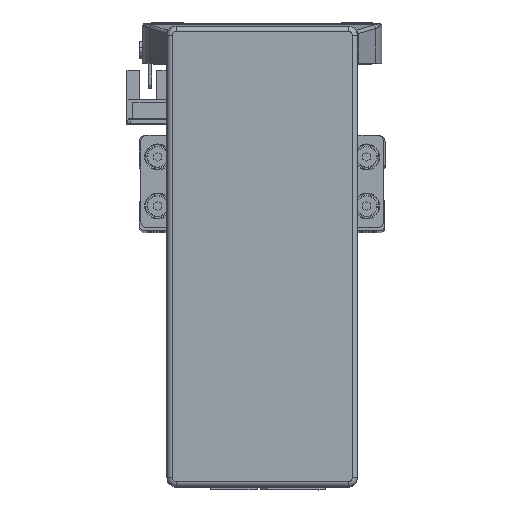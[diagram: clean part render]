
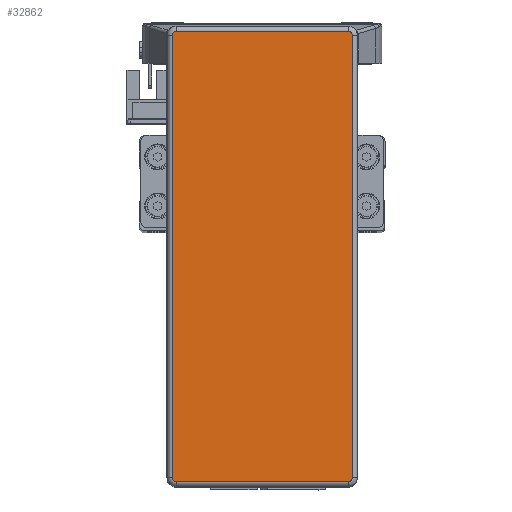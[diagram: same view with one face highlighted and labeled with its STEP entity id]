
A CAD part, top view. The second image highlights one B-rep face of the part: STEP entity #32862.
In plain terms, the highlighted planar face has unit normal (0, 0, 1) as drawn and (0, 0, -1) by its records, which use the part's own axes.
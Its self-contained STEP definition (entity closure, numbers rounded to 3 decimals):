
#507 = DIRECTION ( 'NONE',  ( 1., 0., 0. ) ) ;
#509 = DIRECTION ( 'NONE',  ( 0., 0., -1. ) ) ;
#520 = CARTESIAN_POINT ( 'NONE',  ( -71.995, -27.995, -32.2 ) ) ;
#526 = DIRECTION ( 'NONE',  ( 1., 0., 0. ) ) ;
#532 = CARTESIAN_POINT ( 'NONE',  ( 71.995, -27.995, -32.2 ) ) ;
#539 = DIRECTION ( 'NONE',  ( 0., 0., -1. ) ) ;
#549 = CARTESIAN_POINT ( 'NONE',  ( 71.995, 29.295, -32.2 ) ) ;
#561 = DIRECTION ( 'NONE',  ( 1., 0., 0. ) ) ;
#577 = DIRECTION ( 'NONE',  ( 1., 0., 0. ) ) ;
#578 = CARTESIAN_POINT ( 'NONE',  ( 71.995, 27.995, -32.2 ) ) ;
#580 = DIRECTION ( 'NONE',  ( 0., 0., -1. ) ) ;
#674 = DIRECTION ( 'NONE',  ( 0., 0., -1. ) ) ;
#680 = CARTESIAN_POINT ( 'NONE',  ( 73.295, -27.995, -32.2 ) ) ;
#681 = CARTESIAN_POINT ( 'NONE',  ( -73.295, -27.995, -32.2 ) ) ;
#684 = CARTESIAN_POINT ( 'NONE',  ( 71.995, -29.295, -32.2 ) ) ;
#688 = DIRECTION ( 'NONE',  ( -1., 0., 0. ) ) ;
#690 = DIRECTION ( 'NONE',  ( 0., -1., 0. ) ) ;
#701 = CARTESIAN_POINT ( 'NONE',  ( -71.995, 27.995, -32.2 ) ) ;
#708 = DIRECTION ( 'NONE',  ( 1., 0., 0. ) ) ;
#716 = DIRECTION ( 'NONE',  ( 0., 1., 0. ) ) ;
#2111 = DIRECTION ( 'NONE',  ( 0., 0., 1. ) ) ;
#2119 = CARTESIAN_POINT ( 'NONE',  ( 71.995, -27.995, -32.2 ) ) ;
#2122 = DIRECTION ( 'NONE',  ( 1., 0., 0. ) ) ;
#2138 = PLANE ( 'NONE',  #35242 ) ;
#2472 = FACE_OUTER_BOUND ( 'NONE', #39430, .T. ) ;
#8682 = CARTESIAN_POINT ( 'NONE',  ( 73.295, 27.995, -32.2 ) ) ;
#8687 = CARTESIAN_POINT ( 'NONE',  ( -73.295, 27.995, -32.2 ) ) ;
#8692 = CARTESIAN_POINT ( 'NONE',  ( 71.995, 29.295, -32.2 ) ) ;
#8698 = CARTESIAN_POINT ( 'NONE',  ( 73.295, -27.995, -32.2 ) ) ;
#8702 = CARTESIAN_POINT ( 'NONE',  ( -71.995, -29.295, -32.2 ) ) ;
#8711 = CARTESIAN_POINT ( 'NONE',  ( -71.995, 29.295, -32.2 ) ) ;
#8715 = CARTESIAN_POINT ( 'NONE',  ( 71.995, -29.295, -32.2 ) ) ;
#8723 = CARTESIAN_POINT ( 'NONE',  ( -73.295, -27.995, -32.2 ) ) ;
#16251 = EDGE_CURVE ( 'NONE', #39388, #39416, #23282, .T. ) ;
#16273 = EDGE_CURVE ( 'NONE', #39393, #39384, #23268, .T. ) ;
#16280 = EDGE_CURVE ( 'NONE', #39402, #39431, #23274, .T. ) ;
#16320 = EDGE_CURVE ( 'NONE', #39385, #39402, #23330, .T. ) ;
#16377 = EDGE_CURVE ( 'NONE', #39431, #39388, #23356, .T. ) ;
#16384 = EDGE_CURVE ( 'NONE', #39384, #39397, #23363, .T. ) ;
#16388 = EDGE_CURVE ( 'NONE', #39397, #39385, #23374, .T. ) ;
#16394 = EDGE_CURVE ( 'NONE', #39416, #39393, #23355, .T. ) ;
#23268 = CIRCLE ( 'NONE', #34774, 1.3 ) ;
#23274 = CIRCLE ( 'NONE', #34789, 1.3 ) ;
#23282 = CIRCLE ( 'NONE', #34808, 1.3 ) ;
#23330 = LINE ( 'NONE', #549, #23348 ) ;
#23348 = VECTOR ( 'NONE', #561, 1000. ) ;
#23355 = LINE ( 'NONE', #684, #23384 ) ;
#23356 = LINE ( 'NONE', #680, #23375 ) ;
#23363 = LINE ( 'NONE', #681, #23369 ) ;
#23369 = VECTOR ( 'NONE', #716, 1000. ) ;
#23374 = CIRCLE ( 'NONE', #34837, 1.3 ) ;
#23375 = VECTOR ( 'NONE', #690, 1000. ) ;
#23384 = VECTOR ( 'NONE', #688, 1000. ) ;
#32862 = ADVANCED_FACE ( 'NONE', ( #2472 ), #2138, .F. ) ;
#34774 = AXIS2_PLACEMENT_3D ( 'NONE', #520, #539, #507 ) ;
#34789 = AXIS2_PLACEMENT_3D ( 'NONE', #578, #580, #577 ) ;
#34808 = AXIS2_PLACEMENT_3D ( 'NONE', #532, #509, #526 ) ;
#34837 = AXIS2_PLACEMENT_3D ( 'NONE', #701, #674, #708 ) ;
#35242 = AXIS2_PLACEMENT_3D ( 'NONE', #2119, #2111, #2122 ) ;
#39384 = VERTEX_POINT ( 'NONE', #8723 ) ;
#39385 = VERTEX_POINT ( 'NONE', #8711 ) ;
#39388 = VERTEX_POINT ( 'NONE', #8698 ) ;
#39393 = VERTEX_POINT ( 'NONE', #8702 ) ;
#39397 = VERTEX_POINT ( 'NONE', #8687 ) ;
#39402 = VERTEX_POINT ( 'NONE', #8692 ) ;
#39416 = VERTEX_POINT ( 'NONE', #8715 ) ;
#39430 = EDGE_LOOP ( 'NONE', ( #39876, #39881, #39847, #39944, #39856, #39843, #39882, #39850 ) ) ;
#39431 = VERTEX_POINT ( 'NONE', #8682 ) ;
#39843 = ORIENTED_EDGE ( 'NONE', *, *, #16388, .T. ) ;
#39847 = ORIENTED_EDGE ( 'NONE', *, *, #16394, .T. ) ;
#39850 = ORIENTED_EDGE ( 'NONE', *, *, #16280, .T. ) ;
#39856 = ORIENTED_EDGE ( 'NONE', *, *, #16384, .T. ) ;
#39876 = ORIENTED_EDGE ( 'NONE', *, *, #16377, .T. ) ;
#39881 = ORIENTED_EDGE ( 'NONE', *, *, #16251, .T. ) ;
#39882 = ORIENTED_EDGE ( 'NONE', *, *, #16320, .T. ) ;
#39944 = ORIENTED_EDGE ( 'NONE', *, *, #16273, .T. ) ;
